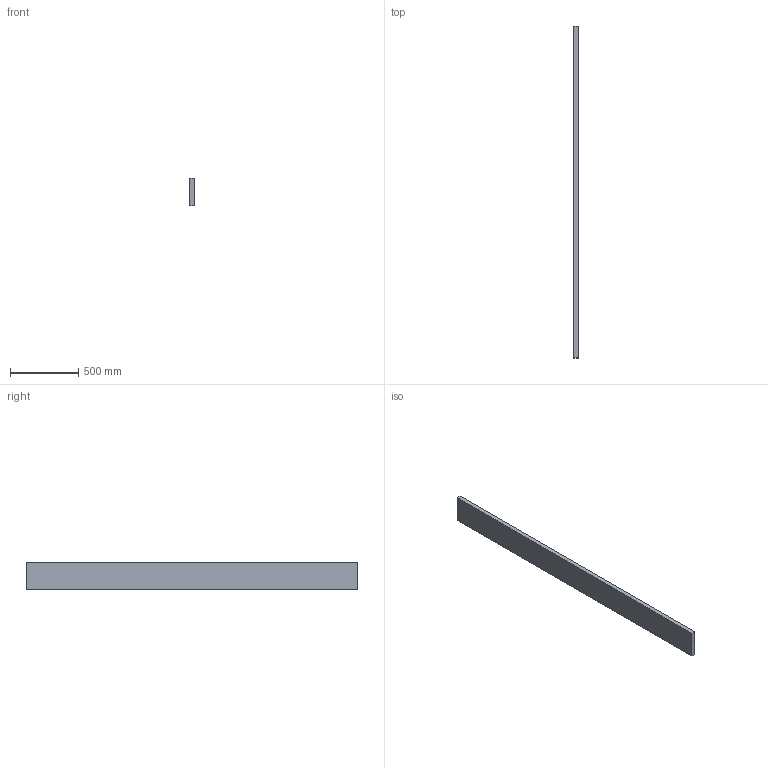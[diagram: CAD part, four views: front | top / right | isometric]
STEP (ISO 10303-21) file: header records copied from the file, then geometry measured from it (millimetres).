
FILE_DESCRIPTION(/* description */ (''),/* implementation_level */ '2;1');
FILE_NAME(/* name */ 'SM_Baffle1.2x8x96',/* time_stamp */ '2024-10-15T11:56:45-05:00',/* author */ (''),/* organization */ (''),/* preprocessor_version */ 'ST-DEVELOPER v19.2',/* originating_system */ 'Rhino 8.4',/* authorisation */ '');
FILE_SCHEMA (('CONFIG_CONTROL_DESIGN'));
Length unit declared in the file: inch
Products named in the file (1): Document
Bounding box: 30.48 x 2438.4 x 203.2 mm (x, y, z)
Volume: 15102318.2 mm3; surface area: 1151997.7 mm2
Topology: 1 solids, 1 shells, 6 faces, 12 edges, 8 vertices
Faces by surface type: plane 6
Entity records: 226 total; most frequent: CARTESIAN_POINT 40, ORIENTED_EDGE 24, EDGE_CURVE 12, B_SPLINE_CURVE_WITH_KNOTS 12, DIRECTION 10, VERTEX_POINT 8, AXIS2_PLACEMENT_3D 8, ORGANIZATION 7
